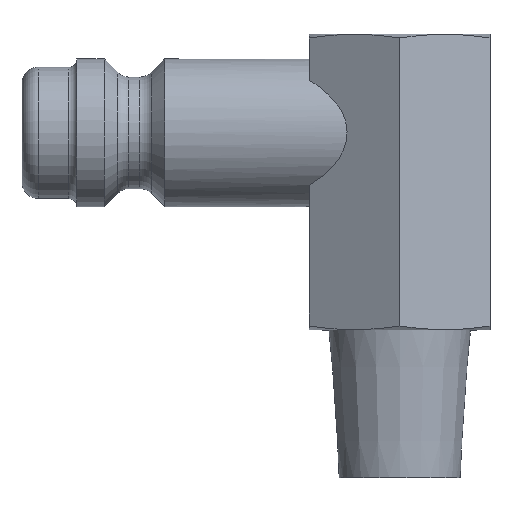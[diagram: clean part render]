
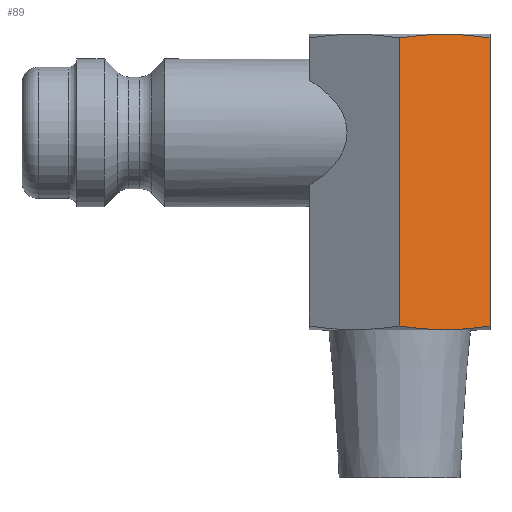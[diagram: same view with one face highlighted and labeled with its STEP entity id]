
A CAD part, top view. The second image highlights one B-rep face of the part: STEP entity #89.
In plain terms, the highlighted planar face has unit normal (0.5, 0, 0.866).
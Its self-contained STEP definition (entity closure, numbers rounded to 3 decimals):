
#89 = ADVANCED_FACE( '', ( #147 ), #148, .T. );
#147 = FACE_OUTER_BOUND( '', #239, .T. );
#148 = PLANE( '', #240 );
#239 = EDGE_LOOP( '', ( #406, #407, #408, #409, #410, #411 ) );
#240 = AXIS2_PLACEMENT_3D( '', #412, #413, #414 );
#406 = ORIENTED_EDGE( '', *, *, #599, .T. );
#407 = ORIENTED_EDGE( '', *, *, #600, .T. );
#408 = ORIENTED_EDGE( '', *, *, #570, .F. );
#409 = ORIENTED_EDGE( '', *, *, #581, .T. );
#410 = ORIENTED_EDGE( '', *, *, #601, .T. );
#411 = ORIENTED_EDGE( '', *, *, #595, .T. );
#412 = CARTESIAN_POINT( '', ( 0., -12., 6.351 ) );
#413 = DIRECTION( '', ( 0.5, 0., 0.866 ) );
#414 = DIRECTION( '', ( 0.866, 0., -0.5 ) );
#570 = EDGE_CURVE( '', #654, #656, #657, .T. );
#581 = EDGE_CURVE( '', #654, #668, #675, .T. );
#595 = EDGE_CURVE( '', #698, #696, #699, .T. );
#599 = EDGE_CURVE( '', #696, #704, #705, .T. );
#600 = EDGE_CURVE( '', #704, #656, #706, .T. );
#601 = EDGE_CURVE( '', #668, #698, #707, .T. );
#654 = VERTEX_POINT( '', #848 );
#656 = VERTEX_POINT( '', #853 );
#657 = LINE( '', #854, #855 );
#668 = VERTEX_POINT( '', #872 );
#675 = B_SPLINE_CURVE_WITH_KNOTS( '', 3, ( #879, #880, #881, #882 ), .UNSPECIFIED., .F., .F., ( 4, 4 ), ( 0., 0.003 ), .UNSPECIFIED. );
#696 = VERTEX_POINT( '', #930 );
#698 = VERTEX_POINT( '', #935 );
#699 = LINE( '', #936, #937 );
#704 = VERTEX_POINT( '', #951 );
#705 = B_SPLINE_CURVE_WITH_KNOTS( '', 3, ( #952, #953, #954, #955 ), .UNSPECIFIED., .F., .F., ( 4, 4 ), ( 0., 0.003 ), .UNSPECIFIED. );
#706 = B_SPLINE_CURVE_WITH_KNOTS( '', 3, ( #956, #957, #958, #959 ), .UNSPECIFIED., .F., .F., ( 4, 4 ), ( 0.003, 0.006 ), .UNSPECIFIED. );
#707 = B_SPLINE_CURVE_WITH_KNOTS( '', 3, ( #960, #961, #962, #963 ), .UNSPECIFIED., .F., .F., ( 4, 4 ), ( 0.003, 0.006 ), .UNSPECIFIED. );
#848 = CARTESIAN_POINT( '', ( 0., -11.772, 6.351 ) );
#853 = CARTESIAN_POINT( '', ( 0., 5.772, 6.351 ) );
#854 = CARTESIAN_POINT( '', ( 0., -12., 6.351 ) );
#855 = VECTOR( '', #1030, 1000. );
#872 = CARTESIAN_POINT( '', ( 2.75, -12., 4.763 ) );
#879 = CARTESIAN_POINT( '', ( 0., -11.772, 6.351 ) );
#880 = CARTESIAN_POINT( '', ( 0.917, -11.914, 5.822 ) );
#881 = CARTESIAN_POINT( '', ( 1.833, -12., 5.292 ) );
#882 = CARTESIAN_POINT( '', ( 2.75, -12., 4.763 ) );
#930 = CARTESIAN_POINT( '', ( 5.5, 5.772, 3.175 ) );
#935 = CARTESIAN_POINT( '', ( 5.5, -11.772, 3.175 ) );
#936 = CARTESIAN_POINT( '', ( 5.5, -12., 3.175 ) );
#937 = VECTOR( '', #1066, 1000. );
#951 = CARTESIAN_POINT( '', ( 2.75, 6., 4.763 ) );
#952 = CARTESIAN_POINT( '', ( 5.5, 5.772, 3.175 ) );
#953 = CARTESIAN_POINT( '', ( 4.583, 5.914, 3.705 ) );
#954 = CARTESIAN_POINT( '', ( 3.667, 6., 4.234 ) );
#955 = CARTESIAN_POINT( '', ( 2.75, 6., 4.763 ) );
#956 = CARTESIAN_POINT( '', ( 2.75, 6., 4.763 ) );
#957 = CARTESIAN_POINT( '', ( 1.833, 6., 5.292 ) );
#958 = CARTESIAN_POINT( '', ( 0.917, 5.914, 5.822 ) );
#959 = CARTESIAN_POINT( '', ( 0., 5.772, 6.351 ) );
#960 = CARTESIAN_POINT( '', ( 2.75, -12., 4.763 ) );
#961 = CARTESIAN_POINT( '', ( 3.667, -12., 4.234 ) );
#962 = CARTESIAN_POINT( '', ( 4.583, -11.914, 3.705 ) );
#963 = CARTESIAN_POINT( '', ( 5.5, -11.772, 3.175 ) );
#1030 = DIRECTION( '', ( 0., 1., 0. ) );
#1066 = DIRECTION( '', ( 0., 1., 0. ) );
